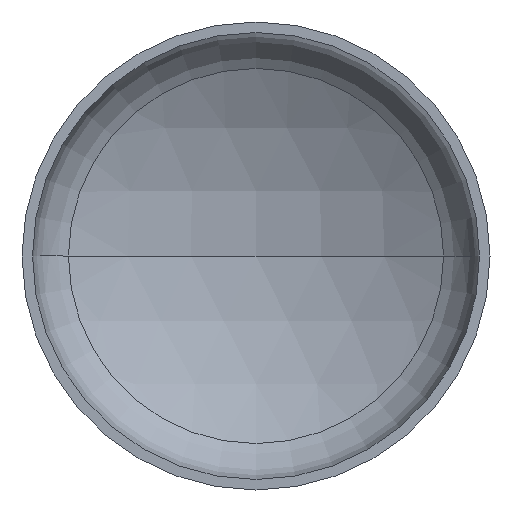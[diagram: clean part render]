
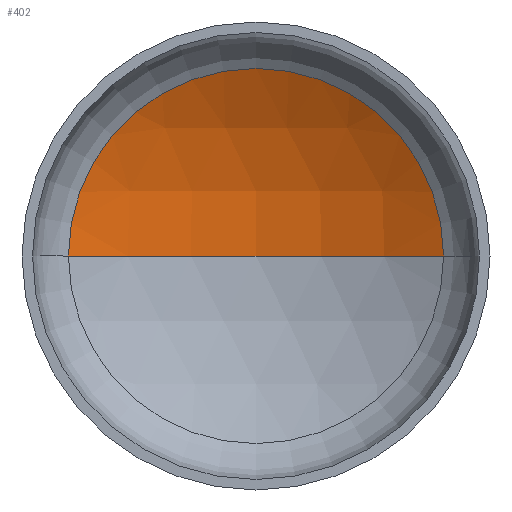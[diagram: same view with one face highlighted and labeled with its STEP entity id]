
A CAD part, front view. The second image highlights one B-rep face of the part: STEP entity #402.
In plain terms, the highlighted spherical face has radius 4000 mm.
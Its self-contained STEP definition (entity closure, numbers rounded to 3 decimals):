
#3 = EDGE_LOOP ( 'NONE', ( #55, #97, #39 ) ) ;
#39 = ORIENTED_EDGE ( 'NONE', *, *, #175, .T. ) ;
#43 = VERTEX_POINT ( 'NONE', #251 ) ;
#44 = DIRECTION ( 'NONE',  ( 1., 0., 0. ) ) ;
#49 = AXIS2_PLACEMENT_3D ( 'NONE', #179, #52, #44 ) ;
#51 = AXIS2_PLACEMENT_3D ( 'NONE', #256, #284, #283 ) ;
#52 = DIRECTION ( 'NONE',  ( 0., 0., 1. ) ) ;
#55 = ORIENTED_EDGE ( 'NONE', *, *, #213, .F. ) ;
#58 = AXIS2_PLACEMENT_3D ( 'NONE', #224, #219, #223 ) ;
#90 = VERTEX_POINT ( 'NONE', #250 ) ;
#97 = ORIENTED_EDGE ( 'NONE', *, *, #195, .T. ) ;
#128 = CIRCLE ( 'NONE', #58, 2003.715 ) ;
#141 = FACE_OUTER_BOUND ( 'NONE', #3, .T. ) ;
#175 = EDGE_CURVE ( 'NONE', #43, #90, #128, .T. ) ;
#179 = CARTESIAN_POINT ( 'NONE',  ( 0., -2720.528, 0. ) ) ;
#195 = EDGE_CURVE ( 'NONE', #227, #43, #257, .T. ) ;
#213 = EDGE_CURVE ( 'NONE', #227, #90, #306, .T. ) ;
#219 = DIRECTION ( 'NONE',  ( 0., -1., 0. ) ) ;
#223 = DIRECTION ( 'NONE',  ( 1., 0., 0. ) ) ;
#224 = CARTESIAN_POINT ( 'NONE',  ( 0., 741.426, 0. ) ) ;
#227 = VERTEX_POINT ( 'NONE', #243 ) ;
#243 = CARTESIAN_POINT ( 'NONE',  ( 0., 1279.472, 0. ) ) ;
#250 = CARTESIAN_POINT ( 'NONE',  ( -2003.715, 741.426, 0. ) ) ;
#251 = CARTESIAN_POINT ( 'NONE',  ( 2003.715, 741.426, 0. ) ) ;
#255 = CARTESIAN_POINT ( 'NONE',  ( 0., -2720.528, 0. ) ) ;
#256 = CARTESIAN_POINT ( 'NONE',  ( 0., -2720.528, 0. ) ) ;
#257 = CIRCLE ( 'NONE', #51, 4000. ) ;
#283 = DIRECTION ( 'NONE',  ( -1., 0., 0. ) ) ;
#284 = DIRECTION ( 'NONE',  ( 0., 0., -1. ) ) ;
#306 = CIRCLE ( 'NONE', #49, 4000. ) ;
#369 = DIRECTION ( 'NONE',  ( -1., 0., 0. ) ) ;
#370 = DIRECTION ( 'NONE',  ( 0., 0., -1. ) ) ;
#390 = SPHERICAL_SURFACE ( 'NONE', #409, 4000. ) ;
#402 = ADVANCED_FACE ( 'NONE', ( #141 ), #390, .F. ) ;
#409 = AXIS2_PLACEMENT_3D ( 'NONE', #255, #370, #369 ) ;
